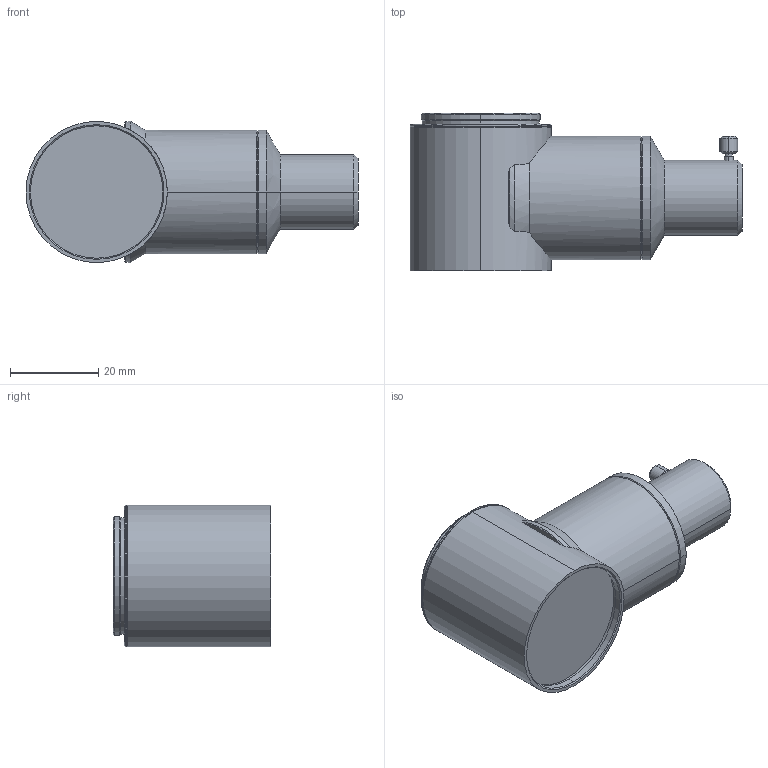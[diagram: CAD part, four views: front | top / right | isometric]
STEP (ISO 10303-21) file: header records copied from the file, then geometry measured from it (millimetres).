
FILE_DESCRIPTION (( 'STEP AP203' ), '1' );
FILE_NAME ('VS-HM270.STEP', '2020-04-09T06:37:33', ( '' ), ( '' ), 'SwSTEP 2.0', 'SolidWorks 2018', '' );
FILE_SCHEMA (( 'CONFIG_CONTROL_DESIGN' ));
Length unit declared in the file: millimetre
Products named in the file (1): VS-HM270
Bounding box: 75.2 x 35.7 x 32 mm (x, y, z)
Surface area: 9488.7 mm2 (no closed solid volume)
Topology: 0 solids, 4 shells, 76 faces, 166 edges, 98 vertices
Faces by surface type: cone 32, cylinder 32, plane 12
Entity records: 2356 total; most frequent: CARTESIAN_POINT 621, DIRECTION 380, ORIENTED_EDGE 306, EDGE_CURVE 166, AXIS2_PLACEMENT_3D 159, VERTEX_POINT 98, EDGE_LOOP 83, CIRCLE 82
